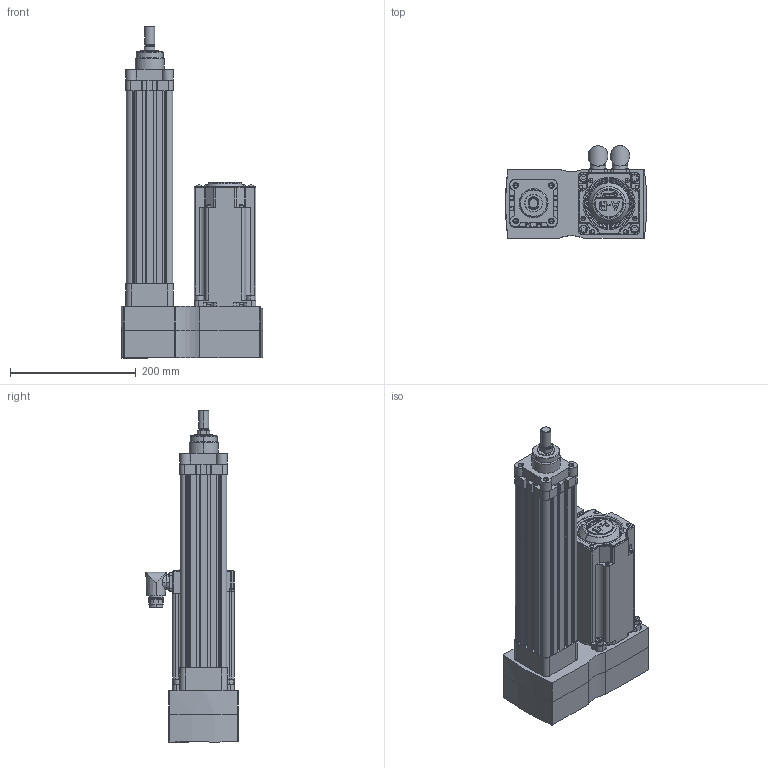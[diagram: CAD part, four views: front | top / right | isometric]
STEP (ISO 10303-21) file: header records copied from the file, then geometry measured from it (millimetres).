
FILE_DESCRIPTION (( 'STEP AP214' ), '1' );
FILE_NAME ('Rockwell Automation-$PARTNUMBER.STEP', '2015-07-13T13:52:50', ( 'Windows User' ), ( '' ), 'SwSTEP 2.0', 'SolidWorks 2015', '' );
FILE_SCHEMA (( 'AUTOMOTIVE_DESIGN' ));
Length unit declared in the file: millimetre
Products named in the file (15): Rockwell Automation-$PARTNUMBER; Rockwell Automation-$PARTNUMBER_Rockwell Automation-MPAR-X3200H-M4E_MPAR-x3200x; Rockwell Automation-$PARTNUMBER_Rockwell Automation-MPAR-X3200H-M4E_PRT0008-543143; Rockwell Automation-$PARTNUMBER_Rockwell Automation-MPAR-X3200H-M4E_PRT0007-543143; Rockwell Automation-$PARTNUMBER_Rockwell Automation-MPAR-X3200H-M4E_MPL-x420F-M-X214_MPL-x420x-xJ74AA; Rockwell Automation-$PARTNUMBER_Rockwell Automation-MPAR-X3200H-M4E_MPL-x420x-xJ74AA_MPL-3xx-Encoder Connector; Rockwell Automation-$PARTNUMBER_Rockwell Automation-MPAR-X3200H-M4E_MPL-x420x-xJ74AA_MPL-3xx-Power Connector; Rockwell Automation-$PARTNUMBER_Rockwell Automation-MPAR-X3200H-M4E_MPL-x420x-xJ74AA_MPL-4xx-Shaft_420-shaft-keyed-BRAKE; Rockwell Automation-$PARTNUMBER_Rockwell Automation-MPAR-X3200H-M4E_MPL-x420x-xJ74AA_MPL-4xx-Body_420-BRAKE; Rockwell Automation-$PARTNUMBER_Rockwell Automation-MPAR-X3200H-M4E_627504; Rockwell Automation-$PARTNUMBER_Rockwell Automation-MPAR-X3200H-M4E_627504_R_1202498; Rockwell Automation-$PARTNUMBER_Rockwell Automation-MPAR-X3200H-M4E_627504_R_1202519; Rockwell Automation-$PARTNUMBER_Rockwell Automation-MPAR-X3200H-M4E_627504_R_200692_2; Rockwell Automation-$PARTNUMBER_Rockwell Automation-MPAR-X3200H-M4E_627504_R_215990_2; Rockwell Automation-$PARTNUMBER_Rockwell Automation-MPAR-X3200H-M4E_627504_R_354152_2
Assembly tree (24 placements, depth 3):
  Rockwell Automation-$PARTNUMBER
    Rockwell Automation-$PARTNUMBER_Rockwell Automation-MPAR-X3200H-M4E_627504
      Rockwell Automation-$PARTNUMBER_Rockwell Automation-MPAR-X3200H-M4E_627504_R_354152_2  x4
      Rockwell Automation-$PARTNUMBER_Rockwell Automation-MPAR-X3200H-M4E_627504_R_215990_2  x5
      Rockwell Automation-$PARTNUMBER_Rockwell Automation-MPAR-X3200H-M4E_627504_R_200692_2  x4
      Rockwell Automation-$PARTNUMBER_Rockwell Automation-MPAR-X3200H-M4E_627504_R_1202519
      Rockwell Automation-$PARTNUMBER_Rockwell Automation-MPAR-X3200H-M4E_627504_R_1202498
    Rockwell Automation-$PARTNUMBER_Rockwell Automation-MPAR-X3200H-M4E_MPL-x420F-M-X214_MPL-x420x-xJ74AA
      Rockwell Automation-$PARTNUMBER_Rockwell Automation-MPAR-X3200H-M4E_MPL-x420x-xJ74AA_MPL-4xx-Body_420-BRAKE
      Rockwell Automation-$PARTNUMBER_Rockwell Automation-MPAR-X3200H-M4E_MPL-x420x-xJ74AA_MPL-4xx-Shaft_420-shaft-keyed-BRAKE
      Rockwell Automation-$PARTNUMBER_Rockwell Automation-MPAR-X3200H-M4E_MPL-x420x-xJ74AA_MPL-3xx-Power Connector
      Rockwell Automation-$PARTNUMBER_Rockwell Automation-MPAR-X3200H-M4E_MPL-x420x-xJ74AA_MPL-3xx-Encoder Connector
    Rockwell Automation-$PARTNUMBER_Rockwell Automation-MPAR-X3200H-M4E_MPAR-x3200x
      Rockwell Automation-$PARTNUMBER_Rockwell Automation-MPAR-X3200H-M4E_PRT0007-543143
      Rockwell Automation-$PARTNUMBER_Rockwell Automation-MPAR-X3200H-M4E_PRT0008-543143
Bounding box: 225 x 146.82 x 528 mm (x, y, z)
Volume: 4055362.1 mm3; surface area: 651495.4 mm2
Topology: 22 solids, 22 shells, 2224 faces, 5675 edges, 3637 vertices
Faces by surface type: plane 863, cylinder 800, cone 353, bspline 112, torus 96
Entity records: 69732 total; most frequent: CARTESIAN_POINT 21242, ORIENTED_EDGE 9948, DIRECTION 9465, EDGE_CURVE 4974, AXIS2_PLACEMENT_3D 3466, VERTEX_POINT 3217, LINE 2533, VECTOR 2533
